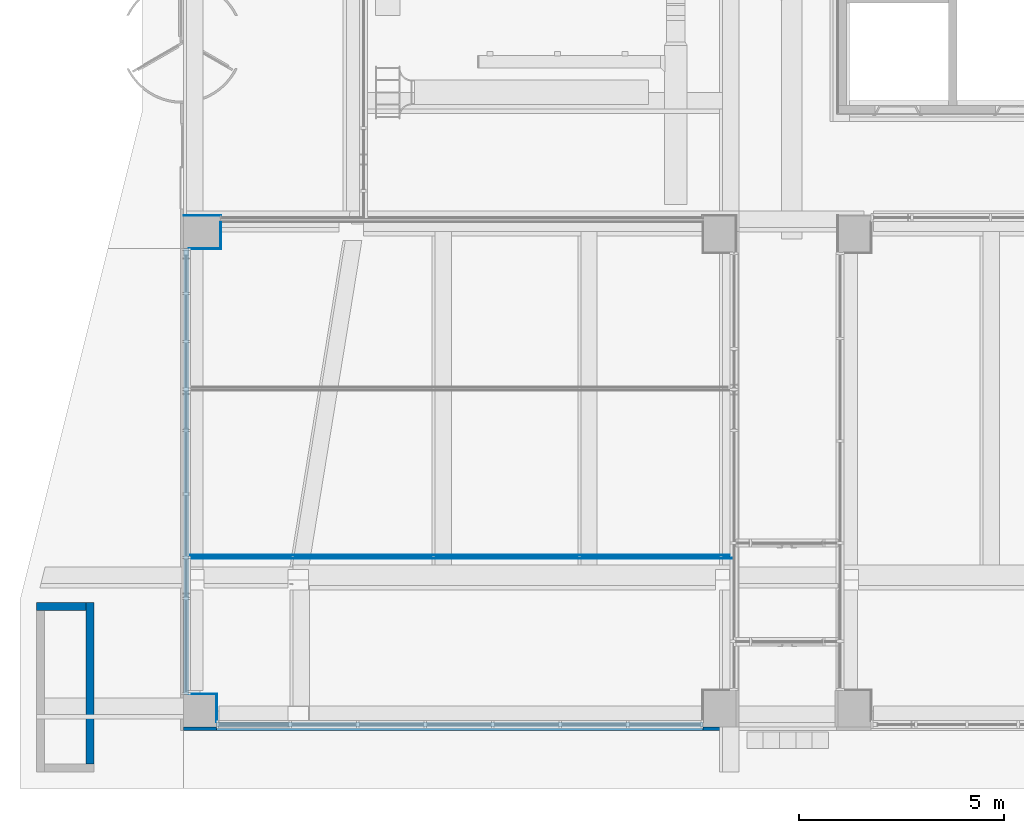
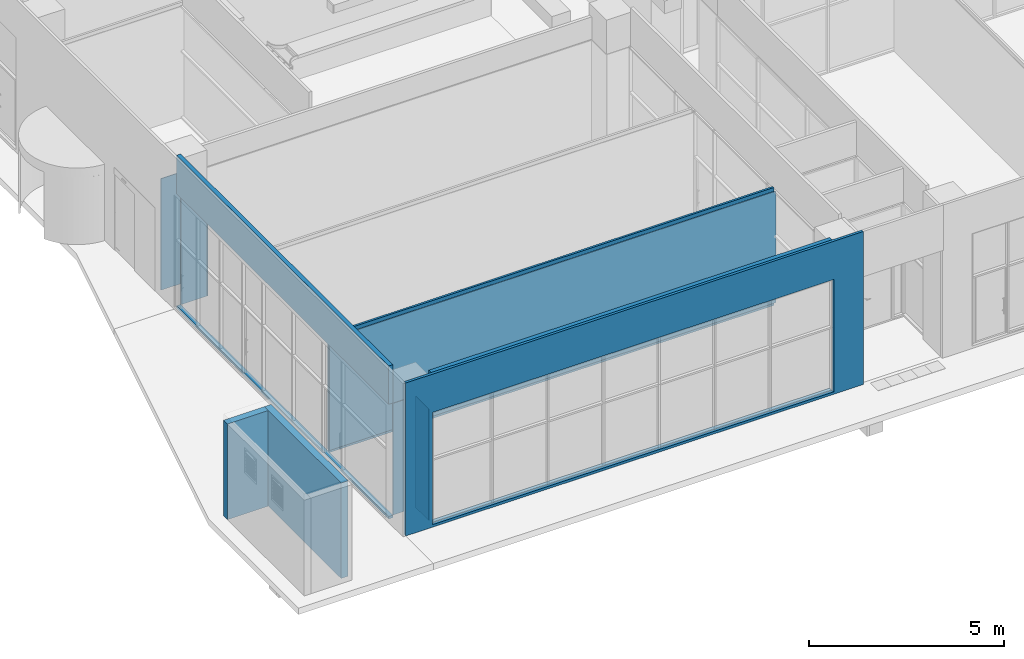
# One storey, part 32 of 100: 13 walls, 5 openings.
"""IFC2X3 building model written with IfcOpenShell, lengths in millimetres."""

from ifc_helpers import new_model, entity, si_unit, converted_unit, derived_unit, direction, frame, frame_2d, origin, place, context, subcontext, project, spatial, rectangle, extrude, material, layer, layer_set, layer_usage, type_object, element, save


model = new_model("IFC2X3")

# Units and contexts
model_context = context("Model", 3, precision=0.01, world=origin(), true_north=direction((6.123031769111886e-17, 1.0)))
body_context = subcontext(model_context, "Body", "Model", "MODEL_VIEW")
ifc_project = project(units=[si_unit("LENGTHUNIT", "METRE", prefix="MILLI"), si_unit("AREAUNIT", "SQUARE_METRE"), si_unit("VOLUMEUNIT", "CUBIC_METRE"), converted_unit("PLANEANGLEUNIT", "DEGREE", entity("IfcRatioMeasure", 0.017453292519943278), si_unit("PLANEANGLEUNIT", "RADIAN"), dimensions=[0, 0, 0, 0, 0, 0, 0]), si_unit("MASSUNIT", "GRAM", prefix="KILO"), derived_unit("MASSDENSITYUNIT", [(si_unit("MASSUNIT", "GRAM", prefix="KILO"), 1), (si_unit("LENGTHUNIT", "METRE"), -3)]), derived_unit("MOMENTOFINERTIAUNIT", [(si_unit("LENGTHUNIT", "METRE"), 4)]), si_unit("TIMEUNIT", "SECOND"), si_unit("FREQUENCYUNIT", "HERTZ"), si_unit("THERMODYNAMICTEMPERATUREUNIT", "DEGREE_CELSIUS"), derived_unit("THERMALTRANSMITTANCEUNIT", [(si_unit("MASSUNIT", "GRAM", prefix="KILO"), 1), (si_unit("THERMODYNAMICTEMPERATUREUNIT", "KELVIN"), -1), (si_unit("TIMEUNIT", "SECOND"), -3)]), derived_unit("VOLUMETRICFLOWRATEUNIT", [(si_unit("LENGTHUNIT", "METRE"), 3), (si_unit("TIMEUNIT", "SECOND"), -1)]), derived_unit("MASSFLOWRATEUNIT", [(si_unit("MASSUNIT", "GRAM", prefix="KILO"), 1), (si_unit("TIMEUNIT", "SECOND"), -1)]), derived_unit("ROTATIONALFREQUENCYUNIT", [(si_unit("TIMEUNIT", "SECOND"), -1)]), si_unit("ELECTRICCURRENTUNIT", "AMPERE"), si_unit("ELECTRICVOLTAGEUNIT", "VOLT"), si_unit("POWERUNIT", "WATT"), si_unit("FORCEUNIT", "NEWTON", prefix="KILO"), si_unit("ILLUMINANCEUNIT", "LUX"), si_unit("LUMINOUSFLUXUNIT", "LUMEN"), si_unit("LUMINOUSINTENSITYUNIT", "CANDELA"), derived_unit("USERDEFINED", [(si_unit("MASSUNIT", "GRAM", prefix="KILO"), -1), (si_unit("LENGTHUNIT", "METRE"), -2), (si_unit("TIMEUNIT", "SECOND"), 3), (si_unit("LUMINOUSFLUXUNIT", "LUMEN"), 1)]), derived_unit("SOUNDPOWERUNIT", [(si_unit("MASSUNIT", "GRAM", prefix="KILO"), 1), (si_unit("LENGTHUNIT", "METRE"), 2), (si_unit("TIMEUNIT", "SECOND"), -3)]), derived_unit("SOUNDPRESSUREUNIT", [(si_unit("MASSUNIT", "GRAM", prefix="KILO"), 1), (si_unit("LENGTHUNIT", "METRE"), -1), (si_unit("TIMEUNIT", "SECOND"), -2)]), derived_unit("LINEARVELOCITYUNIT", [(si_unit("LENGTHUNIT", "METRE"), 1), (si_unit("TIMEUNIT", "SECOND"), -1)]), si_unit("PRESSUREUNIT", "PASCAL"), derived_unit("USERDEFINED", [(si_unit("LENGTHUNIT", "METRE"), -2), (si_unit("MASSUNIT", "GRAM", prefix="KILO"), 1), (si_unit("TIMEUNIT", "SECOND"), -2)]), derived_unit("LINEARFORCEUNIT", [(si_unit("MASSUNIT", "GRAM", prefix="KILO"), 1), (si_unit("LENGTHUNIT", "METRE"), 1), (si_unit("TIMEUNIT", "SECOND"), -2), (si_unit("LENGTHUNIT", "METRE"), -1)]), derived_unit("PLANARFORCEUNIT", [(si_unit("MASSUNIT", "GRAM", prefix="KILO"), 1), (si_unit("LENGTHUNIT", "METRE"), 1), (si_unit("TIMEUNIT", "SECOND"), -2), (si_unit("LENGTHUNIT", "METRE"), -2)])], contexts=[model_context])

# Site, building, storey
site_placement = place(None, frame((-14167.972527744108, -657.2125860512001, 0.0)))
site = spatial("IfcSite", under=ifc_project, at=site_placement, Name="Default", CompositionType="ELEMENT")
building_placement = place(site_placement, origin())
building = spatial("IfcBuilding", under=site, at=building_placement, Name="Sample Building", CompositionType="ELEMENT")
storey_placement = place(building_placement, origin())
storey = spatial("IfcBuildingStorey", under=building, at=storey_placement, Name="지상 1층", CompositionType="ELEMENT", Elevation=0.0)

# Walls
ifc_material_1 = material(Name="KBIMS-콘크리트")
ifc_layer_1 = layer(ifc_material_1, 200.0)
ifc_layer_set_1 = layer_set([ifc_layer_1], Name="기본 벽:WA111-철근콘크리트구조 벽 200mm_CW1")
ifc_layer_usage_1 = layer_usage(ifc_layer_set_1, "AXIS2", "NEGATIVE", 100.0)
wall_type_1 = type_object("IfcWallType", Name="기본 벽:WA111-철근콘크리트구조 벽 200mm_CW1", PredefinedType="STANDARD", material=ifc_layer_set_1)
wall_1_placement = place(storey_placement, frame((10467.972417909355, 3502.9138206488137, 0.0)))
element("IfcWallStandardCase", 1, at=wall_1_placement, inside=storey, type_object=wall_type_1, material=ifc_layer_usage_1, Name="기본 벽:WA111-철근콘크리트구조 벽 200mm_CW1", ObjectType="기본 벽:WA111-철근콘크리트구조 벽 200mm_CW1", context=body_context, shape_type="SweptSolid", body=[
    extrude(rectangle(XDim=1209.9999999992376, YDim=200.0, at=frame_2d((604.9999999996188, 0.0), x_axis=(-1.0, 0.0))), origin(), (0.0, 0.0, 1.0), 2999.999999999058),
])
ifc_layer_usage_2 = layer_usage(ifc_layer_set_1, "AXIS2", "NEGATIVE", 100.0)
wall_2_placement = place(storey_placement, frame((11777.972417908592, 3602.9138206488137, 0.0), z_axis=(0.0, 0.0, 1.0), x_axis=(0.0, -1.0, 0.0)))
element("IfcWallStandardCase", 2, at=wall_2_placement, inside=storey, type_object=wall_type_1, material=ifc_layer_usage_2, Name="기본 벽:WA111-철근콘크리트구조 벽 200mm_CW1", ObjectType="기본 벽:WA111-철근콘크리트구조 벽 200mm_CW1", context=body_context, shape_type="SweptSolid", body=[
    extrude(rectangle(XDim=3945.7015557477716, YDim=200.0, at=frame_2d((1972.8507778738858, 1.0871303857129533e-12), x_axis=(-1.0, 0.0))), origin(), (0.0, 0.0, 1.0), 2999.999999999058),
])

# Wall, openings
ifc_material_2 = material(Name="KBIMS-화강석 잔다듬")
ifc_layer_2 = layer(ifc_material_2, 80.0)
ifc_layer_set_2 = layer_set([ifc_layer_2], Name="기본 벽:WA313-화강석잔다듬 벽 (30, 건식50) 80mm")
ifc_layer_usage_3 = layer_usage(ifc_layer_set_2, "AXIS2", "POSITIVE", -40.0)
wall_type_2 = type_object("IfcWallType", Name="기본 벽:WA313-화강석잔다듬 벽 (30, 건식50) 80mm", PredefinedType="STANDARD", material=ifc_layer_set_2)
wall_3_placement = place(storey_placement, frame((14067.95510516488, 517.2121951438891, 0.0)))
wall_3 = element("IfcWallStandardCase", 3, at=wall_3_placement, inside=storey, type_object=wall_type_2, material=ifc_layer_usage_3, Name="기본 벽:WA313-화강석잔다듬 벽 (30, 건식50) 80mm", ObjectType="기본 벽:WA313-화강석잔다듬 벽 (30, 건식50) 80mm", context=body_context, shape_type="SweptSolid", body=[
    extrude(rectangle(XDim=13580.000036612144, YDim=80.00000000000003, at=frame_2d((6790.000018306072, -2.1316282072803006e-14), x_axis=(-1.0, 0.0))), origin(), (0.0, 0.0, 1.0), 4799.999999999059),
])
opening_1_placement = place(wall_3_placement, origin())
element("IfcOpeningElement", 4, at=opening_1_placement, cuts=wall_3, Name="기본 벽:WA313-화강석잔다듬 벽 (30, 건식50) 80mm", ObjectType="Opening", context=body_context, shape_type="SweptSolid", body=[
    extrude(rectangle(XDim=3520.000000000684, YDim=11900.000036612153, at=frame_2d((-1.1368683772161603e-13, -9.094947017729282e-13), x_axis=(1.0, 0.0))), frame((6750.017367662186, -192.40000000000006, 1840.0), z_axis=(0.0, 1.0, 0.0), x_axis=(0.0, 0.0, 1.0)), (0.0, 0.0, 1.0), 384.79999999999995),
])
opening_2_placement = place(wall_3_placement, origin())
element("IfcOpeningElement", 5, at=opening_2_placement, cuts=wall_3, Name="기본 벽:WA313-화강석잔다듬 벽 (30, 건식50) 80mm", ObjectType="Opening", context=body_context, shape_type="SweptSolid", body=[
    extrude(rectangle(XDim=3520.000000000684, YDim=9900.000000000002, at=frame_2d((-1.1368683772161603e-13, 0.0), x_axis=(1.0, 0.0))), frame((21750.017385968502, -192.40000000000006, 1840.0), z_axis=(0.0, 1.0, 0.0), x_axis=(0.0, 0.0, 1.0)), (0.0, 0.0, 1.0), 384.79999999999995),
])
opening_3_placement = place(wall_3_placement, origin())
element("IfcOpeningElement", 6, at=opening_3_placement, cuts=wall_3, Name="기본 벽:WA313-화강석잔다듬 벽 (30, 건식50) 80mm", ObjectType="Opening", context=body_context, shape_type="SweptSolid", body=[
    extrude(rectangle(XDim=3520.000000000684, YDim=9081.999994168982, at=frame_2d((-1.1368683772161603e-13, 4.092726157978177e-12), x_axis=(1.0, 0.0))), frame((32059.017383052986, -192.40000000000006, 1840.0), z_axis=(0.0, 1.0, 0.0), x_axis=(0.0, 0.0, 1.0)), (0.0, 0.0, 1.0), 384.79999999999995),
])

# Wall
ifc_material_3 = material(Name="KBIMS-DRY WALL")
ifc_layer_3 = layer(ifc_material_3, 12.5)
ifc_material_4 = material(Name="KBIMS-경량철골벽틀")
ifc_layer_4 = layer(ifc_material_4, 50.0)
ifc_layer_set_3 = layer_set([ifc_layer_3, ifc_layer_4], Name="기본 벽:WA731-DRY WALL(C50, GS12.5mm) (1겹한면, GW50mm) 62.5mm")
ifc_layer_usage_4 = layer_usage(ifc_layer_set_3, "AXIS2", "NEGATIVE", 31.250000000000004)
wall_type_3 = type_object("IfcWallType", Name="기본 벽:WA731-DRY WALL(C50, GS12.5mm) (1겹한면, GW50mm) 62.5mm", PredefinedType="STANDARD", material=ifc_layer_set_3)
wall_4_placement = place(storey_placement, frame((14229.839654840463, 4725.927619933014, 0.0)))
element("IfcWallStandardCase", 7, at=wall_4_placement, inside=storey, type_object=wall_type_3, material=ifc_layer_usage_4, Name="기본 벽:WA731-DRY WALL(C50, GS12.5mm) (1겹한면, GW50mm) 62.5mm", ObjectType="기본 벽:WA731-DRY WALL(C50, GS12.5mm) (1겹한면, GW50mm) 62.5mm", context=body_context, shape_type="SweptSolid", body=[
    extrude(rectangle(XDim=13193.140659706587, YDim=62.49999999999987, at=frame_2d((6596.5703298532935, -1.0480505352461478e-13), x_axis=(-1.0, 0.0))), origin(), (0.0, 0.0, 1.0), 3700.000000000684),
])

# Wall, opening
ifc_layer_5 = layer(ifc_material_1, 125.00000000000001)
ifc_layer_set_4 = layer_set([ifc_layer_5], Name="기본 벽:WA111-철근콘크리트구조 벽 125mm_W3")
ifc_layer_usage_5 = layer_usage(ifc_layer_set_4, "AXIS2", "NEGATIVE", 62.50000000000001)
wall_type_4 = type_object("IfcWallType", Name="기본 벽:WA111-철근콘크리트구조 벽 125mm_W3", PredefinedType="STANDARD", material=ifc_layer_set_4)
wall_5_placement = place(storey_placement, frame((14130.455105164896, 12257.194891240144, 0.0), z_axis=(0.0, 0.0, 1.0), x_axis=(0.0, -1.0, 0.0)))
wall_5 = element("IfcWallStandardCase", 8, at=wall_5_placement, inside=storey, type_object=wall_type_4, material=ifc_layer_usage_5, Name="기본 벽:WA111-철근콘크리트구조 벽 125mm_W3", ObjectType="기본 벽:WA111-철근콘크리트구조 벽 125mm_W3", context=body_context, shape_type="SweptSolid", body=[
    extrude(rectangle(XDim=10899.983005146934, YDim=124.99999999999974, at=frame_2d((5449.991502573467, 1.0906830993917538e-12), x_axis=(-1.0, 0.0))), origin(), (0.0, 0.0, 1.0), 4800.000000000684),
])
opening_4_placement = place(wall_5_placement, origin())
element("IfcOpeningElement", 9, at=opening_4_placement, cuts=wall_5, Name="기본 벽:WA111-철근콘크리트구조 벽 125mm_W3", ObjectType="Opening", context=body_context, shape_type="SweptSolid", body=[
    extrude(rectangle(XDim=3520.000000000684, YDim=10899.983005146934, at=frame_2d((-1.1368683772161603e-13, 0.0), x_axis=(1.0, 0.0))), frame((5449.991502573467, -214.89999999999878, 1840.0), z_axis=(0.0, 1.0, 0.0), x_axis=(0.0, 0.0, 1.0)), (0.0, 0.0, 1.0), 429.7999999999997),
])

ifc_layer_usage_6 = layer_usage(ifc_layer_set_4, "AXIS2", "NEGATIVE", 62.50000000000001)
wall_6_placement = place(storey_placement, frame((14867.972454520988, 619.7122951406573, 0.0)))
wall_6 = element("IfcWallStandardCase", 10, at=wall_6_placement, inside=storey, type_object=wall_type_4, material=ifc_layer_usage_6, Name="기본 벽:WA111-철근콘크리트구조 벽 125mm_W3", ObjectType="기본 벽:WA111-철근콘크리트구조 벽 125mm_W3", context=body_context, shape_type="SweptSolid", body=[
    extrude(rectangle(XDim=11900.000036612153, YDim=125.0, at=frame_2d((5950.0000183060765, 3.197442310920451e-14), x_axis=(-1.0, 0.0))), origin(), (0.0, 0.0, 1.0), 4800.000000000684),
])
opening_5_placement = place(wall_6_placement, origin())
element("IfcOpeningElement", 11, at=opening_5_placement, cuts=wall_6, Name="기본 벽:WA111-철근콘크리트구조 벽 125mm_W3", ObjectType="Opening", context=body_context, shape_type="SweptSolid", body=[
    extrude(rectangle(XDim=3520.000000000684, YDim=11900.000036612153, at=frame_2d((-1.1368683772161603e-13, -9.094947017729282e-13), x_axis=(1.0, 0.0))), frame((5950.000018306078, -214.89999999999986, 1840.0), z_axis=(0.0, 1.0, 0.0), x_axis=(0.0, 0.0, 1.0)), (0.0, 0.0, 1.0), 429.80000000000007),
])

# Walls
ifc_material_5 = material(Name="WA611-수성페인트 (내부) 벽 (3회)")
ifc_layer_6 = layer(ifc_material_5, 1.0)
ifc_material_6 = material(Name="WA551-시멘트모르타르 (내부) 벽 18mm")
ifc_layer_7 = layer(ifc_material_6, 16.0)
ifc_material_7 = material(Name="WA555-콘크리트면정리 벽 (내부)")
ifc_layer_8 = layer(ifc_material_7, 1.0)
ifc_layer_set_5 = layer_set([ifc_layer_6, ifc_layer_7, ifc_layer_8], Name="기본 벽:A1-32-06A-콘크리트면정리, 시멘트모르타르(미장용), 수성페인트(내부) (18mm)")
ifc_layer_usage_7 = layer_usage(ifc_layer_set_5, "AXIS2", "NEGATIVE", 9.000000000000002)
wall_type_5 = type_object("IfcWallType", Name="기본 벽:A1-32-06A-콘크리트면정리, 시멘트모르타르(미장용), 수성페인트(내부) (18mm)", PredefinedType="STANDARD", material=ifc_layer_set_5)
wall_7_placement = place(storey_placement, frame((14067.9551051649, 13066.194891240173, 80.0)))
element("IfcWallStandardCase", 12, at=wall_7_placement, inside=storey, type_object=wall_type_5, material=ifc_layer_usage_7, Name="기본 벽:A1-32-06A-콘크리트면정리, 시멘트모르타르(미장용), 수성페인트(내부) (18mm)", ObjectType="기본 벽:A1-32-06A-콘크리트면정리, 시멘트모르타르(미장용), 수성페인트(내부) (18mm)", context=body_context, shape_type="SweptSolid", body=[
    extrude(rectangle(XDim=918.0173493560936, YDim=18.00000000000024, at=frame_2d((459.0086746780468, -6.288303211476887e-13), x_axis=(-1.0, 0.0))), origin(), (0.0, 0.0, 1.0), 3500.0000000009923),
])
ifc_layer_usage_8 = layer_usage(ifc_layer_set_5, "AXIS2", "NEGATIVE", 9.000000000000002)
wall_8_placement = place(storey_placement, frame((14976.972454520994, 12894.212586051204, 80.0), z_axis=(0.0, 0.0, 1.0), x_axis=(0.0, -1.0, 0.0)))
element("IfcWallStandardCase", 13, at=wall_8_placement, inside=storey, type_object=wall_type_5, material=ifc_layer_usage_8, Name="기본 벽:A1-32-06A-콘크리트면정리, 시멘트모르타르(미장용), 수성페인트(내부) (18mm)", ObjectType="기본 벽:A1-32-06A-콘크리트면정리, 시멘트모르타르(미장용), 수성페인트(내부) (18mm)", context=body_context, shape_type="SweptSolid", body=[
    extrude(rectangle(XDim=655.0176948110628, YDim=18.00000000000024, at=frame_2d((327.5088474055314, -8.43769498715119e-14), x_axis=(-1.0, 0.0))), origin(), (0.0, 0.0, 1.0), 3500.0000000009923),
])
ifc_layer_usage_9 = layer_usage(ifc_layer_set_5, "AXIS2", "NEGATIVE", 9.000000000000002)
wall_9_placement = place(storey_placement, frame((14967.97245452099, 12248.19489124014, 80.0), z_axis=(0.0, 0.0, 1.0), x_axis=(-1.0, 0.0, 0.0)))
element("IfcWallStandardCase", 14, at=wall_9_placement, inside=storey, type_object=wall_type_5, material=ifc_layer_usage_9, Name="기본 벽:A1-32-06A-콘크리트면정리, 시멘트모르타르(미장용), 수성페인트(내부) (18mm)", ObjectType="기본 벽:A1-32-06A-콘크리트면정리, 시멘트모르타르(미장용), 수성페인트(내부) (18mm)", context=body_context, shape_type="SweptSolid", body=[
    extrude(rectangle(XDim=775.0173493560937, YDim=18.00000000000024, at=frame_2d((387.5086746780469, -1.7763568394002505e-15), x_axis=(-1.0, 0.0))), origin(), (0.0, 0.0, 1.0), 3500.0000000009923),
])
ifc_layer_usage_10 = layer_usage(ifc_layer_set_5, "AXIS2", "POSITIVE", -9.000000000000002)
wall_10_placement = place(storey_placement, frame((27421.980314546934, 4765.177619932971, 80.0), z_axis=(0.0, 0.0, 1.0), x_axis=(-1.0, 0.0, 0.0)))
element("IfcWallStandardCase", 15, at=wall_10_placement, inside=storey, type_object=wall_type_5, material=ifc_layer_usage_10, Name="기본 벽:A1-32-06A-콘크리트면정리, 시멘트모르타르(미장용), 수성페인트(내부) (18mm)", ObjectType="기본 벽:A1-32-06A-콘크리트면정리, 시멘트모르타르(미장용), 수성페인트(내부) (18mm)", context=body_context, shape_type="SweptSolid", body=[
    extrude(rectangle(XDim=13192.140659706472, YDim=18.000000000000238, at=frame_2d((6596.070329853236, -1.2168044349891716e-13), x_axis=(-1.0, 0.0))), origin(), (0.0, 0.0, 1.0), 3500.0000000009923),
])
ifc_layer_usage_11 = layer_usage(ifc_layer_set_5, "AXIS2", "POSITIVE", -9.000000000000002)
wall_11_placement = place(storey_placement, frame((14229.839654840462, 4685.677619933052, 80.0)))
element("IfcWallStandardCase", 16, at=wall_11_placement, inside=storey, type_object=wall_type_5, material=ifc_layer_usage_11, Name="기본 벽:A1-32-06A-콘크리트면정리, 시멘트모르타르(미장용), 수성페인트(내부) (18mm)", ObjectType="기본 벽:A1-32-06A-콘크리트면정리, 시멘트모르타르(미장용), 수성페인트(내부) (18mm)", context=body_context, shape_type="SweptSolid", body=[
    extrude(rectangle(XDim=13248.115486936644, YDim=18.00000000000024, at=frame_2d((6624.057743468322, -6.039613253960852e-14), x_axis=(-1.0, 0.0))), origin(), (0.0, 0.0, 1.0), 3500.0000000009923),
])
ifc_layer_usage_12 = layer_usage(ifc_layer_set_5, "AXIS2", "NEGATIVE", 9.000000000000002)
wall_12_placement = place(storey_placement, frame((14192.95510516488, 1366.2118860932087, 80.0)))
element("IfcWallStandardCase", 17, at=wall_12_placement, inside=storey, type_object=wall_type_5, material=ifc_layer_usage_12, Name="기본 벽:A1-32-06A-콘크리트면정리, 시멘트모르타르(미장용), 수성페인트(내부) (18mm)", ObjectType="기본 벽:A1-32-06A-콘크리트면정리, 시멘트모르타르(미장용), 수성페인트(내부) (18mm)", context=body_context, shape_type="SweptSolid", body=[
    extrude(rectangle(XDim=693.0173493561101, YDim=17.999999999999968, at=frame_2d((346.50867467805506, 1.9806378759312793e-13), x_axis=(-1.0, 0.0))), origin(), (0.0, 0.0, 1.0), 3500.0000000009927),
])
ifc_layer_usage_13 = layer_usage(ifc_layer_set_5, "AXIS2", "NEGATIVE", 9.000000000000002)
wall_13_placement = place(storey_placement, frame((14876.97245452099, 1357.211886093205, 80.0), z_axis=(0.0, 0.0, 1.0), x_axis=(0.0, -1.0, 0.0)))
element("IfcWallStandardCase", 18, at=wall_13_placement, inside=storey, type_object=wall_type_5, material=ifc_layer_usage_13, Name="기본 벽:A1-32-06A-콘크리트면정리, 시멘트모르타르(미장용), 수성페인트(내부) (18mm)", ObjectType="기본 벽:A1-32-06A-콘크리트면정리, 시멘트모르타르(미장용), 수성페인트(내부) (18mm)", context=body_context, shape_type="SweptSolid", body=[
    extrude(rectangle(XDim=674.9995909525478, YDim=18.00000000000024, at=frame_2d((337.4997954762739, -1.6964207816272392e-13), x_axis=(-1.0, 0.0))), origin(), (0.0, 0.0, 1.0), 3500.0000000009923),
])

save(model, "model.ifc")
